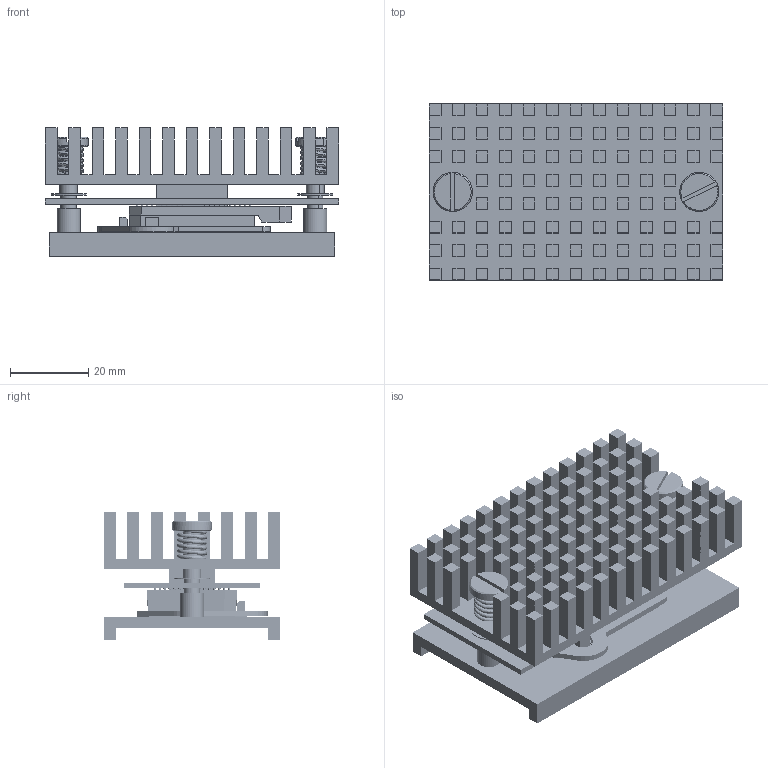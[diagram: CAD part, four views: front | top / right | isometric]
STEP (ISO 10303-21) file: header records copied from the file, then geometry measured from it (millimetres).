
FILE_DESCRIPTION (( 'STEP AP214' ), '1' );
FILE_NAME ('2519036.STEP', '2023-08-17T15:25:43', ( '' ), ( '' ), 'SwSTEP 2.0', 'SolidWorks 2021', '' );
FILE_SCHEMA (( 'AUTOMOTIVE_DESIGN' ));
Length unit declared in the file: millimetre
Products named in the file (18): 2508220; 2509477; sy-pcb-pad-assy-1; sy-pcb-pad-4-contact-1; 2509651; 2509649; 2509478-System-PCB; s453-SymbolizePad; 2509478; s453-47-SST-hWLP-Window; 5105-15; 2519036; s453-47-SST-hWLP-DMD_All; 2509476; 2509647; 2509474; LC-040D-2-S; s453-47-SST-hWLP-Ceramic
Assembly tree (168 placements, depth 4):
  2519036
    s453-47-SST-hWLP-DMD_All
      s453-47-SST-hWLP-Ceramic
      s453-47-SST-hWLP-Window
      s453-SymbolizePad
    2509474
    2509477
    2509476
    2509478
      2509478-System-PCB
      sy-pcb-pad-assy-1
        sy-pcb-pad-4-contact-1  x149
    2508220  x2
    5105-15  x2
    LC-040D-2-S  x2
    2509651
    2509649
    2509647
Bounding box: 75 x 45 x 32.82 mm (x, y, z)
Volume: 39890 mm3; surface area: 45018.5 mm2
Topology: 165 solids, 165 shells, 3533 faces, 7493 edges, 4531 vertices
Faces by surface type: cylinder 1316, plane 1285, cone 916, torus 12, bspline 4
Entity records: 89630 total; most frequent: DIRECTION 14893, CARTESIAN_POINT 14561, ORIENTED_EDGE 12340, EDGE_CURVE 6170, AXIS2_PLACEMENT_3D 5680, VERTEX_POINT 3852, LINE 3533, VECTOR 3533
